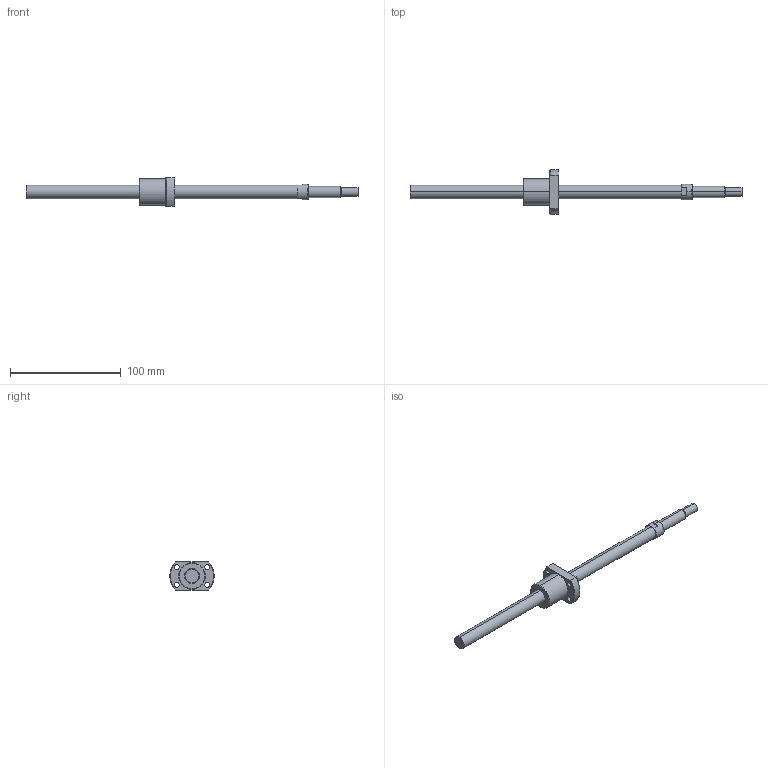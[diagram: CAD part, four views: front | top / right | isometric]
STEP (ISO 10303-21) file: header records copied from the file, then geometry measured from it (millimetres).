
FILE_DESCRIPTION (( 'STEP AP214' ), '1' );
FILE_NAME ('NSGF1205-240R300C_A_X.STEP', '2026-08-25T19:12:41', ( '' ), ( '' ), 'SwSTEP 2.0', 'SolidWorks 2025', '' );
FILE_SCHEMA (( 'AUTOMOTIVE_DESIGN' ));
Length unit declared in the file: millimetre
Products named in the file (3): NSG1205Z-240R30029_(T-S_T-A_2)-2^NSGF1205-240R300C_A_X; NSGF1205Z-1_6^NSGF1205-240R300C_A_X; NSGF1205-240R300C_A_X
Assembly tree (2 placements, depth 2):
  NSGF1205-240R300C_A_X
    NSG1205Z-240R30029_(T-S_T-A_2)-2^NSGF1205-240R300C_A_X
    NSGF1205Z-1_6^NSGF1205-240R300C_A_X
Bounding box: 300 x 39.88 x 26 mm (x, y, z)
Volume: 44810.8 mm3; surface area: 17400.9 mm2
Topology: 2 solids, 2 shells, 54 faces, 124 edges, 78 vertices
Faces by surface type: cylinder 24, plane 16, cone 12, torus 2
Entity records: 1682 total; most frequent: DIRECTION 302, CARTESIAN_POINT 285, ORIENTED_EDGE 248, AXIS2_PLACEMENT_3D 127, EDGE_CURVE 124, VERTEX_POINT 78, EDGE_LOOP 68, CIRCLE 68
